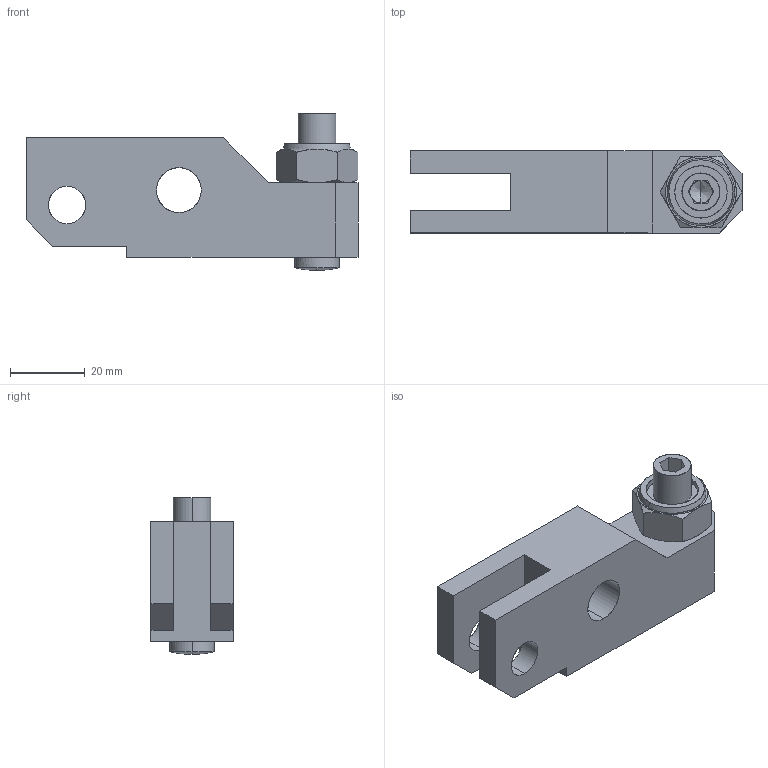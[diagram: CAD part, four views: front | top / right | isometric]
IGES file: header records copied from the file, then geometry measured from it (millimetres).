
Start section: Comment
Global section: file name: JL5H52_ClampArm.igs; native system:  By Spatial Corp.; preprocessor: XPlus GENERIC/IGES 3.0; author: Author; organization: Title; date: 20080526.111503; units: millimetre
Bounding box: 89 x 22 x 42 mm (x, y, z)
Surface area: 14972.4 mm2 (no closed solid volume)
Topology: 0 solids, 0 shells, 85 faces, 398 edges, 392 vertices
Faces by surface type: bspline 85
